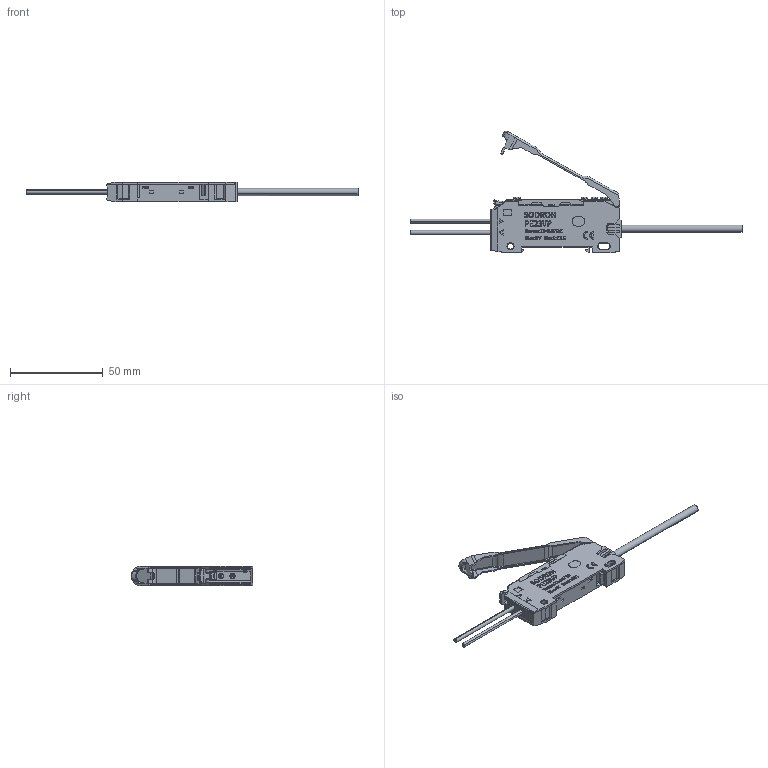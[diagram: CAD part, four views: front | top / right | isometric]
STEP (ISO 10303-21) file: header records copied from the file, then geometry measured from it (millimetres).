
FILE_DESCRIPTION (( 'STEP AP214' ), '1' );
FILE_NAME ('溫湮ん-VP.STEP', '2025-08-19T08:53:34', ( 'Windows User' ), ( 'P R C' ), 'SwSTEP 2.0', 'SolidWorks 2023', '' );
FILE_SCHEMA (( 'AUTOMOTIVE_DESIGN' ));
Length unit declared in the file: millimetre
Products named in the file (20): 液晶屏固定盖; 光纤线; OLED液晶屏; 光纤放大器引线转换头(压按型）; 光纤放大器锁扣架; 指示灯; 发射管屏蔽罩; 光纤放大器壳体盖; 发射器密封垫; 放大器-VP; 光纤放大器引线; ST1.7x5自攻螺丝; 光纤放大器铭板2; 挡片; 液晶屏海绵; 按钮; 光纤放大器接插件; 光纤放大器面罩; 光纤放大器发射器PCB-全封闭式; 光纤放大器壳体3
Assembly tree (22 placements, depth 2):
  放大器-VP
    光纤放大器壳体3
    光纤放大器壳体盖
    光纤放大器面罩
    光纤放大器引线转换头(压按型）
    光纤放大器接插件
    挡片  x2
    光纤放大器锁扣架
    光纤放大器铭板2
    光纤放大器发射器PCB-全封闭式
    发射器密封垫
    ST1.7x5自攻螺丝  x2
    OLED液晶屏
    指示灯
    液晶屏固定盖
    液晶屏海绵
    发射管屏蔽罩
    按钮
    光纤线  x2
    光纤放大器引线
Bounding box: 178.9 x 65.67 x 10.41 mm (x, y, z)
Volume: 10684.3 mm3; surface area: 24678 mm2
Topology: 29 solids, 29 shells, 4064 faces, 11013 edges, 7188 vertices
Faces by surface type: plane 2879, cylinder 643, bspline 347, cone 99, torus 81, sphere 15
Entity records: 143331 total; most frequent: CARTESIAN_POINT 43148, ORIENTED_EDGE 21676, DIRECTION 18877, EDGE_CURVE 10838, VECTOR 8453, LINE 8453, VERTEX_POINT 7082, AXIS2_PLACEMENT_3D 5212
